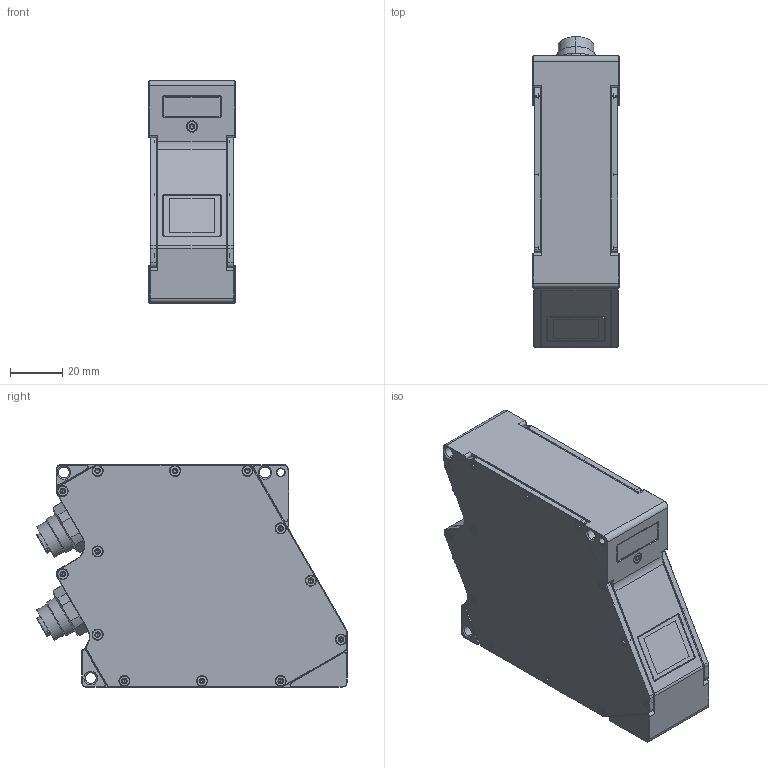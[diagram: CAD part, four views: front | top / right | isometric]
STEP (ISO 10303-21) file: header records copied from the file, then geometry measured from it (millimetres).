
FILE_DESCRIPTION((''),'2;1');
FILE_NAME('0000099899','2015-11-26T',('11000600'),(''),'PRO/ENGINEER BY PARAMETRIC TECHNOLOGY CORPORATION, 2015110','PRO/ENGINEER BY PARAMETRIC TECHNOLOGY CORPORATION, 2015110','');
FILE_SCHEMA(('AUTOMOTIVE_DESIGN { 1 0 10303 214 1 1 1 1 }'));
Products named in the file (1): 0000099899
Bounding box: 33 x 118.52 x 85.05 mm (x, y, z)
Volume: 116530.2 mm3; surface area: 62799.8 mm2
Topology: 4 solids, 84 shells, 2157 faces, 5797 edges, 3827 vertices
Faces by surface type: cylinder 1039, plane 619, cone 380, extrusion 107, torus 10, sphere 2
Entity records: 74657 total; most frequent: CARTESIAN_POINT 21317, ORIENTED_EDGE 11374, DIRECTION 10620, EDGE_CURVE 5687, AXIS2_PLACEMENT_3D 3979, VERTEX_POINT 3827, VECTOR 2662, LINE 2555
